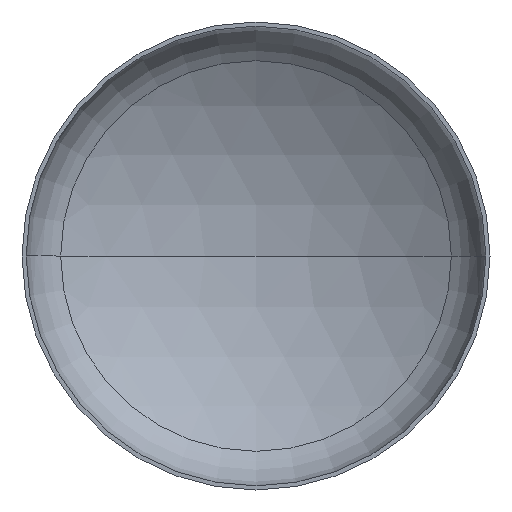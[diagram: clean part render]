
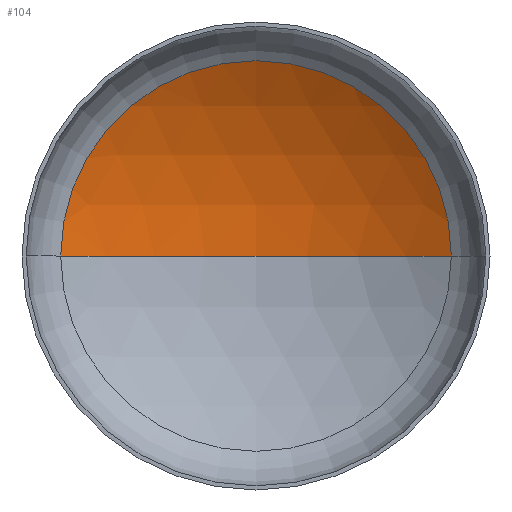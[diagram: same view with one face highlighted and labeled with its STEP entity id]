
A CAD part, front view. The second image highlights one B-rep face of the part: STEP entity #104.
In plain terms, the highlighted spherical face has radius 5600 mm.
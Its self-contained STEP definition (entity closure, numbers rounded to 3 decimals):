
#2 = CIRCLE ( 'NONE', #321, 5600. ) ;
#23 = VERTEX_POINT ( 'NONE', #271 ) ;
#54 = VERTEX_POINT ( 'NONE', #200 ) ;
#64 = ORIENTED_EDGE ( 'NONE', *, *, #154, .T. ) ;
#72 = ORIENTED_EDGE ( 'NONE', *, *, #132, .T. ) ;
#95 = EDGE_LOOP ( 'NONE', ( #103, #72, #64 ) ) ;
#96 = VERTEX_POINT ( 'NONE', #312 ) ;
#97 = EDGE_CURVE ( 'NONE', #96, #54, #296, .T. ) ;
#103 = ORIENTED_EDGE ( 'NONE', *, *, #97, .F. ) ;
#104 = ADVANCED_FACE ( 'NONE', ( #361 ), #128, .F. ) ;
#128 = SPHERICAL_SURFACE ( 'NONE', #339, 5600. ) ;
#132 = EDGE_CURVE ( 'NONE', #96, #23, #2, .T. ) ;
#139 = CIRCLE ( 'NONE', #369, 2921.416 ) ;
#150 = DIRECTION ( 'NONE',  ( 0., -1., 0. ) ) ;
#154 = EDGE_CURVE ( 'NONE', #23, #54, #139, .T. ) ;
#160 = CARTESIAN_POINT ( 'NONE',  ( 0., -3736.194, 0. ) ) ;
#167 = DIRECTION ( 'NONE',  ( 1., 0., 0. ) ) ;
#174 = DIRECTION ( 'NONE',  ( 0., 0., 1. ) ) ;
#175 = DIRECTION ( 'NONE',  ( 1., 0., 0. ) ) ;
#200 = CARTESIAN_POINT ( 'NONE',  ( -2921.416, 1041.392, 0. ) ) ;
#203 = DIRECTION ( 'NONE',  ( 0., 0., -1. ) ) ;
#265 = AXIS2_PLACEMENT_3D ( 'NONE', #160, #174, #175 ) ;
#271 = CARTESIAN_POINT ( 'NONE',  ( 2921.416, 1041.392, 0. ) ) ;
#277 = CARTESIAN_POINT ( 'NONE',  ( 0., 1041.392, 0. ) ) ;
#296 = CIRCLE ( 'NONE', #265, 5600. ) ;
#300 = DIRECTION ( 'NONE',  ( -1., 0., 0. ) ) ;
#302 = CARTESIAN_POINT ( 'NONE',  ( 0., -3736.194, 0. ) ) ;
#312 = CARTESIAN_POINT ( 'NONE',  ( 0., 1863.806, 0. ) ) ;
#321 = AXIS2_PLACEMENT_3D ( 'NONE', #360, #379, #300 ) ;
#331 = DIRECTION ( 'NONE',  ( -1., 0., 0. ) ) ;
#339 = AXIS2_PLACEMENT_3D ( 'NONE', #302, #203, #331 ) ;
#360 = CARTESIAN_POINT ( 'NONE',  ( 0., -3736.194, 0. ) ) ;
#361 = FACE_OUTER_BOUND ( 'NONE', #95, .T. ) ;
#369 = AXIS2_PLACEMENT_3D ( 'NONE', #277, #150, #167 ) ;
#379 = DIRECTION ( 'NONE',  ( 0., 0., -1. ) ) ;
